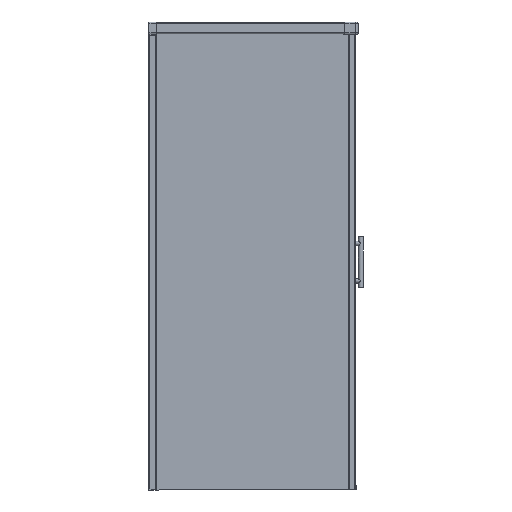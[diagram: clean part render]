
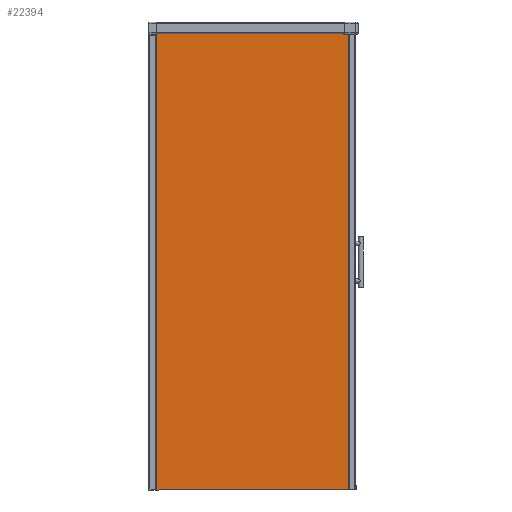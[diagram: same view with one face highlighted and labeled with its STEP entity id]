
A CAD part, front view. The second image highlights one B-rep face of the part: STEP entity #22394.
In plain terms, the highlighted planar face has unit normal (0, -1, 0).
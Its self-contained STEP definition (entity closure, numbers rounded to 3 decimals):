
#2078=FACE_OUTER_BOUND($,#3331,.T.);
#3331=EDGE_LOOP($,(#16490,#16491,#16492,#16493,#16494,#16495,#16496,#16497,
#16498,#16499,#16500,#16501));
#4884=LINE($,#34710,#7093);
#4957=LINE($,#34908,#7166);
#4968=LINE($,#34936,#7177);
#4969=LINE($,#34939,#7178);
#4970=LINE($,#34941,#7179);
#4971=LINE($,#34943,#7180);
#4972=LINE($,#34945,#7181);
#4973=LINE($,#34947,#7182);
#4974=LINE($,#34949,#7183);
#4975=LINE($,#34951,#7184);
#4976=LINE($,#34953,#7185);
#4977=LINE($,#34954,#7186);
#7093=VECTOR($,#27614,821.266);
#7166=VECTOR($,#27813,1948.3);
#7177=VECTOR($,#27838,15.266);
#7178=VECTOR($,#27841,0.1);
#7179=VECTOR($,#27842,5.2);
#7180=VECTOR($,#27843,2.);
#7181=VECTOR($,#27844,799.5);
#7182=VECTOR($,#27845,0.5);
#7183=VECTOR($,#27846,1.693);
#7184=VECTOR($,#27847,4.9);
#7185=VECTOR($,#27848,0.393);
#7186=VECTOR($,#27849,1945.);
#9322=VERTEX_POINT($,#34707);
#9323=VERTEX_POINT($,#34709);
#9385=VERTEX_POINT($,#34906);
#9395=VERTEX_POINT($,#34934);
#9396=VERTEX_POINT($,#34938);
#9397=VERTEX_POINT($,#34940);
#9398=VERTEX_POINT($,#34942);
#9399=VERTEX_POINT($,#34944);
#9400=VERTEX_POINT($,#34946);
#9401=VERTEX_POINT($,#34948);
#9402=VERTEX_POINT($,#34950);
#9403=VERTEX_POINT($,#34952);
#11831=EDGE_CURVE($,#9322,#9323,#4884,.T.);
#11931=EDGE_CURVE($,#9385,#9322,#4957,.T.);
#11945=EDGE_CURVE($,#9395,#9385,#4968,.T.);
#11946=EDGE_CURVE($,#9396,#9395,#4969,.T.);
#11947=EDGE_CURVE($,#9397,#9396,#4970,.T.);
#11948=EDGE_CURVE($,#9398,#9397,#4971,.T.);
#11949=EDGE_CURVE($,#9399,#9398,#4972,.T.);
#11950=EDGE_CURVE($,#9399,#9400,#4973,.T.);
#11951=EDGE_CURVE($,#9400,#9401,#4974,.T.);
#11952=EDGE_CURVE($,#9401,#9402,#4975,.T.);
#11953=EDGE_CURVE($,#9402,#9403,#4976,.T.);
#11954=EDGE_CURVE($,#9403,#9323,#4977,.T.);
#16490=ORIENTED_EDGE($,*,*,#11931,.F.);
#16491=ORIENTED_EDGE($,*,*,#11945,.F.);
#16492=ORIENTED_EDGE($,*,*,#11946,.F.);
#16493=ORIENTED_EDGE($,*,*,#11947,.F.);
#16494=ORIENTED_EDGE($,*,*,#11948,.F.);
#16495=ORIENTED_EDGE($,*,*,#11949,.F.);
#16496=ORIENTED_EDGE($,*,*,#11950,.T.);
#16497=ORIENTED_EDGE($,*,*,#11951,.T.);
#16498=ORIENTED_EDGE($,*,*,#11952,.T.);
#16499=ORIENTED_EDGE($,*,*,#11953,.T.);
#16500=ORIENTED_EDGE($,*,*,#11954,.T.);
#16501=ORIENTED_EDGE($,*,*,#11831,.F.);
#20324=PLANE($,#23955);
#22394=ADVANCED_FACE($,(#2078),#20324,.F.);
#23955=AXIS2_PLACEMENT_3D($,#34937,#27839,#27840);
#27614=DIRECTION($,(-1.,0.,0.));
#27813=DIRECTION($,(0.,0.,-1.));
#27838=DIRECTION($,(1.,0.,0.));
#27839=DIRECTION('center_axis',(0.,1.,0.));
#27840=DIRECTION('ref_axis',(-1.,0.,0.));
#27841=DIRECTION($,(0.,0.,-1.));
#27842=DIRECTION($,(1.,0.,0.));
#27843=DIRECTION($,(0.,0.,-1.));
#27844=DIRECTION($,(1.,0.,0.));
#27845=DIRECTION($,(0.,0.,-1.));
#27846=DIRECTION($,(-1.,0.,0.));
#27847=DIRECTION($,(0.,0.,-1.));
#27848=DIRECTION($,(1.,0.,0.));
#27849=DIRECTION($,(0.,0.,-1.));
#34707=CARTESIAN_POINT('',(1867.252,2872.143,10.));
#34709=CARTESIAN_POINT('',(1045.986,2872.143,10.));
#34710=CARTESIAN_POINT($,(1876.752,2872.143,10.));
#34906=CARTESIAN_POINT('',(1867.252,2872.143,1958.3));
#34908=CARTESIAN_POINT($,(1867.252,2872.143,10.5));
#34934=CARTESIAN_POINT('',(1851.986,2872.143,1958.3));
#34936=CARTESIAN_POINT($,(1879.077,2872.143,1958.3));
#34937=CARTESIAN_POINT('Origin',(1876.752,2872.143,11.));
#34938=CARTESIAN_POINT('',(1851.986,2872.143,1958.4));
#34939=CARTESIAN_POINT($,(1851.986,2872.143,984.65));
#34940=CARTESIAN_POINT('',(1846.786,2872.143,1958.4));
#34941=CARTESIAN_POINT($,(1875.881,2872.143,1958.4));
#34942=CARTESIAN_POINT('',(1846.786,2872.143,1960.4));
#34943=CARTESIAN_POINT($,(1846.786,2872.143,984.7));
#34944=CARTESIAN_POINT('',(1047.286,2872.143,1960.4));
#34945=CARTESIAN_POINT($,(1864.269,2872.143,1960.4));
#34946=CARTESIAN_POINT('',(1047.286,2872.143,1959.9));
#34947=CARTESIAN_POINT($,(1047.286,2872.143,997.95));
#34948=CARTESIAN_POINT('',(1045.593,2872.143,1959.9));
#34949=CARTESIAN_POINT($,(1462.019,2872.143,1959.9));
#34950=CARTESIAN_POINT('',(1045.593,2872.143,1955.));
#34951=CARTESIAN_POINT($,(1045.593,2872.143,982.2));
#34952=CARTESIAN_POINT('',(1045.986,2872.143,1955.));
#34953=CARTESIAN_POINT($,(1453.207,2872.143,1955.));
#34954=CARTESIAN_POINT($,(1045.986,2872.143,10.5));
